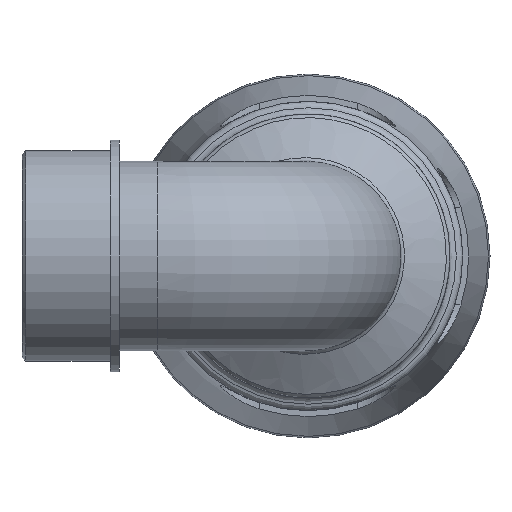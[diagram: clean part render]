
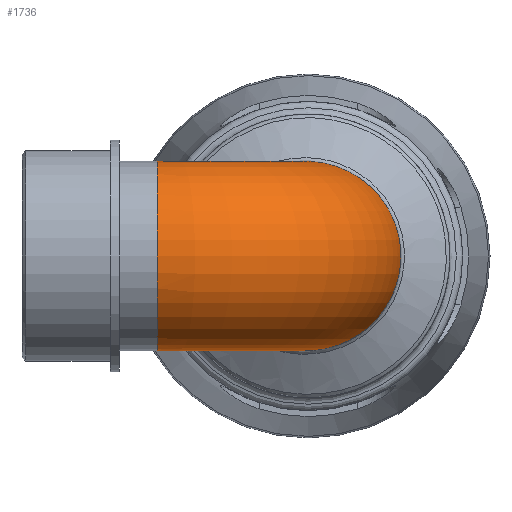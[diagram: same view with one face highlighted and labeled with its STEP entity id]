
A CAD part, left-side view. The second image highlights one B-rep face of the part: STEP entity #1736.
In plain terms, the highlighted toroidal (fillet/blend) face has major radius 42.752 mm and minor radius 26.826 mm.
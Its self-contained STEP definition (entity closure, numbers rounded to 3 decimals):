
#80=TOROIDAL_SURFACE('',#1855,42.753,26.826);
#90=FACE_BOUND('',#436,.T.);
#319=FACE_OUTER_BOUND('',#435,.T.);
#435=EDGE_LOOP('',(#1149));
#436=EDGE_LOOP('',(#1150));
#557=B_SPLINE_CURVE_WITH_KNOTS('',3,(#2632,#2633,#2634,#2635,#2636,#2637,
#2638,#2639,#2640,#2641,#2642,#2643,#2644,#2645,#2646,#2647,#2648,#2649,
#2650,#2651),.UNSPECIFIED.,.T.,.F.,(4,1,1,1,1,1,1,1,1,1,1,1,1,1,1,1,1,4),
(-3.142,-2.917,-2.693,-2.244,
-1.795,-1.346,-1.047,-0.748,
-0.449,-0.15,0.449,0.898,
1.346,1.795,2.244,2.693,2.917,
3.142),.UNSPECIFIED.);
#631=CIRCLE('',#1850,26.826);
#721=VERTEX_POINT('',#2630);
#728=VERTEX_POINT('',#2895);
#882=EDGE_CURVE('',#721,#721,#557,.T.);
#892=EDGE_CURVE('',#728,#728,#631,.T.);
#1149=ORIENTED_EDGE('',*,*,#882,.F.);
#1150=ORIENTED_EDGE('',*,*,#892,.T.);
#1736=ADVANCED_FACE('',(#319,#90),#80,.T.);
#1850=AXIS2_PLACEMENT_3D('',#2896,#2066,#2067);
#1855=AXIS2_PLACEMENT_3D('',#2904,#2076,#2077);
#2066=DIRECTION('center_axis',(0.,-1.,0.));
#2067=DIRECTION('ref_axis',(-1.,0.,0.));
#2076=DIRECTION('center_axis',(0.,0.,1.));
#2077=DIRECTION('ref_axis',(1.,0.,0.));
#2630=CARTESIAN_POINT('',(33.22,29.994,0.));
#2632=CARTESIAN_POINT('Ctrl Pts',(33.22,29.995,0.));
#2633=CARTESIAN_POINT('Ctrl Pts',(33.22,29.995,2.04));
#2634=CARTESIAN_POINT('Ctrl Pts',(33.221,29.402,6.118));
#2635=CARTESIAN_POINT('Ctrl Pts',(33.248,26.115,13.728));
#2636=CARTESIAN_POINT('Ctrl Pts',(33.374,19.061,21.571));
#2637=CARTESIAN_POINT('Ctrl Pts',(33.544,7.677,26.94));
#2638=CARTESIAN_POINT('Ctrl Pts',(33.648,-3.502,27.12));
#2639=CARTESIAN_POINT('Ctrl Pts',(33.71,-12.546,23.778));
#2640=CARTESIAN_POINT('Ctrl Pts',(33.747,-19.107,18.756));
#2641=CARTESIAN_POINT('Ctrl Pts',(33.769,-23.847,12.));
#2642=CARTESIAN_POINT('Ctrl Pts',(33.783,-27.203,1.503));
#2643=CARTESIAN_POINT('Ctrl Pts',(33.776,-25.24,-11.162));
#2644=CARTESIAN_POINT('Ctrl Pts',(33.734,-16.331,-21.935));
#2645=CARTESIAN_POINT('Ctrl Pts',(33.661,-4.904,-27.145));
#2646=CARTESIAN_POINT('Ctrl Pts',(33.544,7.679,-26.938));
#2647=CARTESIAN_POINT('Ctrl Pts',(33.375,19.062,-21.574));
#2648=CARTESIAN_POINT('Ctrl Pts',(33.248,26.115,-13.727));
#2649=CARTESIAN_POINT('Ctrl Pts',(33.221,29.402,-6.119));
#2650=CARTESIAN_POINT('Ctrl Pts',(33.22,29.995,-2.039));
#2651=CARTESIAN_POINT('Ctrl Pts',(33.22,29.995,0.));
#2895=CARTESIAN_POINT('',(26.826,42.753,0.));
#2896=CARTESIAN_POINT('Origin',(0.,42.753,0.));
#2904=CARTESIAN_POINT('Origin',(42.753,42.753,0.));
